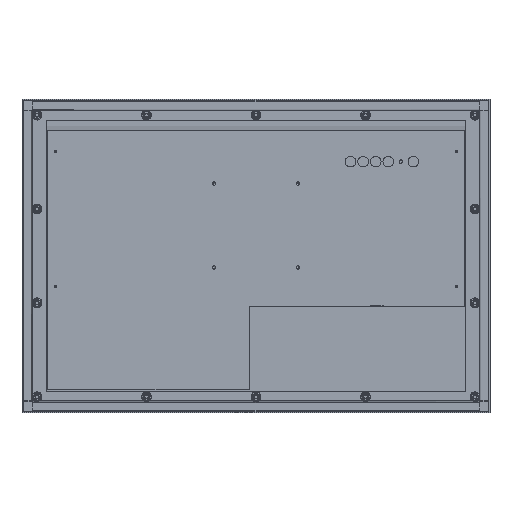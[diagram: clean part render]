
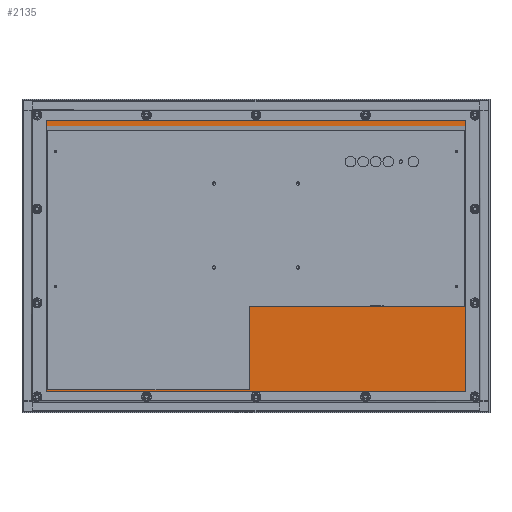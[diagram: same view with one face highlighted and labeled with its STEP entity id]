
A CAD part, top view. The second image highlights one B-rep face of the part: STEP entity #2135.
In plain terms, the highlighted planar face has unit normal (0, 0, 1).
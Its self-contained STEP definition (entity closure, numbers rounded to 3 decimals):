
#8 = FACE_OUTER_BOUND ( 'NONE', #3299, .T. ) ;
#287 = DIRECTION ( 'NONE',  ( -1., 0., 0. ) ) ;
#566 = DIRECTION ( 'NONE',  ( 0.707, -0.707, 0. ) ) ;
#617 = VECTOR ( 'NONE', #287, 1000. ) ;
#746 = CARTESIAN_POINT ( 'NONE',  ( -258.917, -159.236, 18.974 ) ) ;
#1055 = VECTOR ( 'NONE', #8660, 1000. ) ;
#1253 = CARTESIAN_POINT ( 'NONE',  ( 252.505, 165.623, 18.974 ) ) ;
#1318 = LINE ( 'NONE', #3477, #1055 ) ;
#1442 = CARTESIAN_POINT ( 'NONE',  ( -258.917, 159.211, 18.974 ) ) ;
#1503 = VERTEX_POINT ( 'NONE', #6131 ) ;
#1676 = LINE ( 'NONE', #746, #3944 ) ;
#2128 = DIRECTION ( 'NONE',  ( -0.707, 0.707, 0. ) ) ;
#2135 = ADVANCED_FACE ( 'NONE', ( #8 ), #3006, .F. ) ;
#2245 = VERTEX_POINT ( 'NONE', #5709 ) ;
#2344 = LINE ( 'NONE', #1253, #6640 ) ;
#2493 = EDGE_CURVE ( 'NONE', #2245, #3963, #1318, .T. ) ;
#2656 = VECTOR ( 'NONE', #566, 1000. ) ;
#2864 = ORIENTED_EDGE ( 'NONE', *, *, #8989, .T. ) ;
#2988 = VECTOR ( 'NONE', #10234, 1000. ) ;
#2994 = DIRECTION ( 'NONE',  ( 0.707, 0.707, 0. ) ) ;
#3006 = PLANE ( 'NONE',  #10832 ) ;
#3299 = EDGE_LOOP ( 'NONE', ( #4003, #9485, #9156, #4308, #6327, #2864, #6990, #4704 ) ) ;
#3435 = EDGE_CURVE ( 'NONE', #4046, #4717, #7743, .T. ) ;
#3477 = CARTESIAN_POINT ( 'NONE',  ( 258.917, 159.211, 18.974 ) ) ;
#3526 = VECTOR ( 'NONE', #9974, 1000. ) ;
#3803 = EDGE_CURVE ( 'NONE', #8434, #8222, #1676, .T. ) ;
#3851 = CARTESIAN_POINT ( 'NONE',  ( 258.917, -159.236, 18.974 ) ) ;
#3864 = DIRECTION ( 'NONE',  ( 0., 0., -1. ) ) ;
#3944 = VECTOR ( 'NONE', #10213, 1000. ) ;
#3963 = VERTEX_POINT ( 'NONE', #10367 ) ;
#4003 = ORIENTED_EDGE ( 'NONE', *, *, #3803, .T. ) ;
#4046 = VERTEX_POINT ( 'NONE', #10483 ) ;
#4308 = ORIENTED_EDGE ( 'NONE', *, *, #9556, .T. ) ;
#4512 = EDGE_CURVE ( 'NONE', #1503, #8619, #7848, .T. ) ;
#4704 = ORIENTED_EDGE ( 'NONE', *, *, #9100, .T. ) ;
#4717 = VERTEX_POINT ( 'NONE', #10813 ) ;
#4902 = CARTESIAN_POINT ( 'NONE',  ( -258.917, -159.236, 18.974 ) ) ;
#5074 = CARTESIAN_POINT ( 'NONE',  ( 252.505, -165.648, 18.974 ) ) ;
#5413 = CARTESIAN_POINT ( 'NONE',  ( -252.505, 165.623, 18.974 ) ) ;
#5614 = CARTESIAN_POINT ( 'NONE',  ( 252.505, -165.648, 18.974 ) ) ;
#5646 = CARTESIAN_POINT ( 'NONE',  ( -258.917, 159.211, 18.974 ) ) ;
#5694 = CARTESIAN_POINT ( 'NONE',  ( -252.505, -165.648, 18.974 ) ) ;
#5709 = CARTESIAN_POINT ( 'NONE',  ( 258.917, -159.236, 18.974 ) ) ;
#6078 = VECTOR ( 'NONE', #2994, 1000. ) ;
#6131 = CARTESIAN_POINT ( 'NONE',  ( -252.505, -165.648, 18.974 ) ) ;
#6327 = ORIENTED_EDGE ( 'NONE', *, *, #2493, .T. ) ;
#6357 = LINE ( 'NONE', #3851, #6078 ) ;
#6431 = CARTESIAN_POINT ( 'NONE',  ( 0., 0., 18.974 ) ) ;
#6640 = VECTOR ( 'NONE', #2128, 1000. ) ;
#6990 = ORIENTED_EDGE ( 'NONE', *, *, #3435, .T. ) ;
#7743 = LINE ( 'NONE', #5413, #617 ) ;
#7848 = LINE ( 'NONE', #5074, #2988 ) ;
#8222 = VERTEX_POINT ( 'NONE', #4902 ) ;
#8434 = VERTEX_POINT ( 'NONE', #1442 ) ;
#8619 = VERTEX_POINT ( 'NONE', #5614 ) ;
#8660 = DIRECTION ( 'NONE',  ( 0., 1., 0. ) ) ;
#8976 = LINE ( 'NONE', #5694, #2656 ) ;
#8989 = EDGE_CURVE ( 'NONE', #3963, #4046, #2344, .T. ) ;
#9100 = EDGE_CURVE ( 'NONE', #4717, #8434, #10693, .T. ) ;
#9156 = ORIENTED_EDGE ( 'NONE', *, *, #4512, .T. ) ;
#9485 = ORIENTED_EDGE ( 'NONE', *, *, #10670, .T. ) ;
#9556 = EDGE_CURVE ( 'NONE', #8619, #2245, #6357, .T. ) ;
#9896 = DIRECTION ( 'NONE',  ( -1., 0., 0. ) ) ;
#9974 = DIRECTION ( 'NONE',  ( -0.707, -0.707, 0. ) ) ;
#10213 = DIRECTION ( 'NONE',  ( 0., -1., 0. ) ) ;
#10234 = DIRECTION ( 'NONE',  ( 1., 0., 0. ) ) ;
#10367 = CARTESIAN_POINT ( 'NONE',  ( 258.917, 159.211, 18.974 ) ) ;
#10483 = CARTESIAN_POINT ( 'NONE',  ( 252.505, 165.623, 18.974 ) ) ;
#10670 = EDGE_CURVE ( 'NONE', #8222, #1503, #8976, .T. ) ;
#10693 = LINE ( 'NONE', #5646, #3526 ) ;
#10813 = CARTESIAN_POINT ( 'NONE',  ( -252.505, 165.623, 18.974 ) ) ;
#10832 = AXIS2_PLACEMENT_3D ( 'NONE', #6431, #3864, #9896 ) ;
